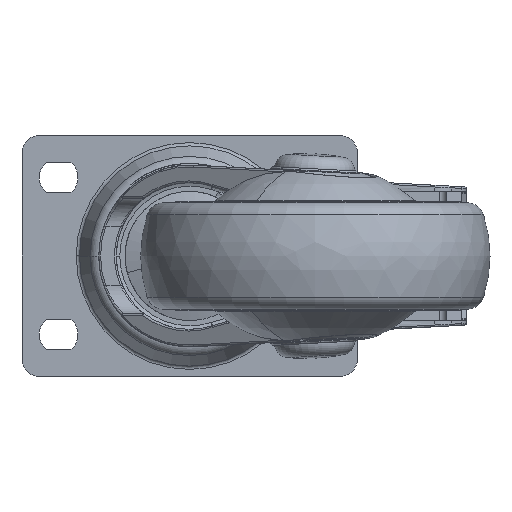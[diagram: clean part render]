
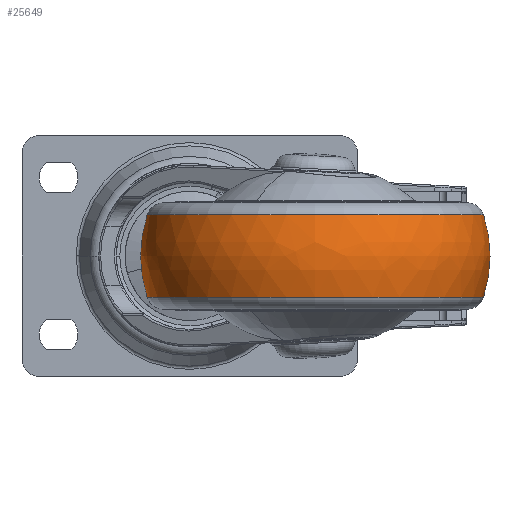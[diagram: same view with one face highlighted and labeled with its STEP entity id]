
A CAD part, front view. The second image highlights one B-rep face of the part: STEP entity #25649.
In plain terms, the highlighted free-form (B-spline) face has degree [3, 3] with [7, 4] control points.
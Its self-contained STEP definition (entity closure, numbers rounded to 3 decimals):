
#25295=CARTESIAN_POINT('',(24.21,-69.8,0.));
#25296=DIRECTION('',(0.,1.,0.));
#25297=DIRECTION('',(-0.951,0.,-0.308));
#25298=AXIS2_PLACEMENT_3D('',#25295,#25296,#25297);
#25305=CARTESIAN_POINT('',(47.79,-69.8,0.));
#25306=DIRECTION('',(0.,-1.,0.));
#25307=DIRECTION('',(0.951,0.,-0.308));
#25308=AXIS2_PLACEMENT_3D('',#25305,#25306,#25307);
#25310=CARTESIAN_POINT('',(36.,-69.8,11.766));
#25311=DIRECTION('',(0.,0.,1.));
#25312=DIRECTION('',(-1.,0.,0.));
#25313=AXIS2_PLACEMENT_3D('',#25310,#25311,#25312);
#25315=CARTESIAN_POINT('',(36.,-69.8,-11.766));
#25316=DIRECTION('',(0.,0.,1.));
#25317=DIRECTION('',(-1.,0.,0.));
#25318=AXIS2_PLACEMENT_3D('',#25315,#25316,#25317);
#25446=CARTESIAN_POINT('',(-12.143,-69.8,11.766));
#25447=CARTESIAN_POINT('',(84.143,-69.8,11.766));
#25448=VERTEX_POINT('',#25446);
#25449=VERTEX_POINT('',#25447);
#25450=CARTESIAN_POINT('',(-12.143,-69.8,-11.766));
#25451=CARTESIAN_POINT('',(84.143,-69.8,-11.766));
#25452=VERTEX_POINT('',#25450);
#25453=VERTEX_POINT('',#25451);
#25613=CARTESIAN_POINT('',(-11.899,-66.786,
-12.22));
#25614=CARTESIAN_POINT('',(-14.593,-66.617,
-4.221));
#25615=CARTESIAN_POINT('',(-14.593,-66.617,
4.221));
#25616=CARTESIAN_POINT('',(-11.899,-66.786,
12.22));
#25617=CARTESIAN_POINT('',(-13.753,-96.263,
-12.22));
#25618=CARTESIAN_POINT('',(-16.552,-97.752,
-4.221));
#25619=CARTESIAN_POINT('',(-16.552,-97.752,
4.221));
#25620=CARTESIAN_POINT('',(-13.753,-96.263,
12.22));
#25621=CARTESIAN_POINT('',(6.465,-117.793,
-12.22));
#25622=CARTESIAN_POINT('',(4.804,-120.493,
-4.221));
#25623=CARTESIAN_POINT('',(4.804,-120.493,
4.221));
#25624=CARTESIAN_POINT('',(6.465,-117.793,
12.22));
#25625=CARTESIAN_POINT('',(36.,-117.793,-12.22));
#25626=CARTESIAN_POINT('',(36.,-120.493,-4.221));
#25627=CARTESIAN_POINT('',(36.,-120.493,4.221));
#25628=CARTESIAN_POINT('',(36.,-117.793,12.22));
#25629=CARTESIAN_POINT('',(65.535,-117.793,
-12.22));
#25630=CARTESIAN_POINT('',(67.196,-120.493,
-4.221));
#25631=CARTESIAN_POINT('',(67.196,-120.493,
4.221));
#25632=CARTESIAN_POINT('',(65.535,-117.793,
12.22));
#25633=CARTESIAN_POINT('',(85.753,-96.263,
-12.22));
#25634=CARTESIAN_POINT('',(88.552,-97.752,
-4.221));
#25635=CARTESIAN_POINT('',(88.552,-97.752,
4.221));
#25636=CARTESIAN_POINT('',(85.753,-96.263,
12.22));
#25637=CARTESIAN_POINT('',(83.899,-66.786,
-12.22));
#25638=CARTESIAN_POINT('',(86.593,-66.617,
-4.221));
#25639=CARTESIAN_POINT('',(86.593,-66.617,
4.221));
#25640=CARTESIAN_POINT('',(83.899,-66.786,
12.22));
#25641=(BOUNDED_SURFACE()B_SPLINE_SURFACE(3,3,((#25613,#25614,#25615,#25616),(
#25617,#25618,#25619,#25620),(#25621,#25622,#25623,#25624),(#25625,#25626,
#25627,#25628),(#25629,#25630,#25631,#25632),(#25633,#25634,#25635,#25636),(
#25637,#25638,#25639,#25640)),.UNSPECIFIED.,.F.,.F.,.F.)B_SPLINE_SURFACE_WITH_KNOTS((4,3,4),(4,4),(0.,1.,2.),(0.,1.),.UNSPECIFIED.)GEOMETRIC_REPRESENTATION_ITEM()RATIONAL_B_SPLINE_SURFACE(((1.219,1.177,
1.177,1.219),(0.963,0.929,
0.929,0.963),(0.963,0.929,
0.929,0.963),(1.219,1.177,
1.177,1.219),(0.963,0.929,
0.929,0.963),(0.963,0.929,
0.929,0.963),(1.219,1.177,
1.177,1.219)))REPRESENTATION_ITEM('')SURFACE());
#25642=ORIENTED_EDGE('',*,*,#25513,.T.);
#25643=ORIENTED_EDGE('',*,*,#25601,.F.);
#25645=ORIENTED_EDGE('',*,*,#25644,.F.);
#25646=ORIENTED_EDGE('',*,*,#25597,.T.);
#25647=EDGE_LOOP('',(#25642,#25643,#25645,#25646));
#25648=FACE_OUTER_BOUND('',#25647,.F.);
#25299=CIRCLE('',#25298,38.21);
#25309=CIRCLE('',#25308,38.21);
#25314=CIRCLE('',#25313,48.143);
#25319=CIRCLE('',#25318,48.143);
#25513=EDGE_CURVE('',#25448,#25449,#25314,.T.);
#25597=EDGE_CURVE('',#25452,#25448,#25299,.T.);
#25601=EDGE_CURVE('',#25453,#25449,#25309,.T.);
#25644=EDGE_CURVE('',#25452,#25453,#25319,.T.);
#25649=ADVANCED_FACE('',(#25648),#25641,.T.);
